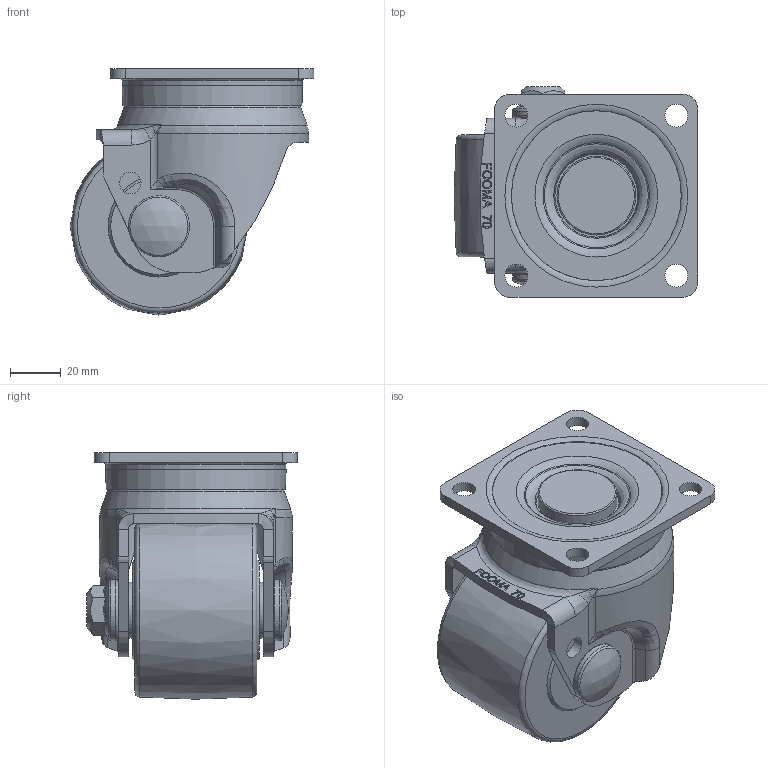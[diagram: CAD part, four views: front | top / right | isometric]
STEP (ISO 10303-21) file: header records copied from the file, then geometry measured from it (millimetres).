
FILE_DESCRIPTION(/* description */ (''),/* implementation_level */ '2;1');
FILE_NAME(/* name */ 'D:/JS-70-ASF-PJP v2.step',/* time_stamp */ '2020-04-02T11:06:53+09:00',/* author */ (''),/* organization */ (''),/* preprocessor_version */ 'ST-DEVELOPER v18',/* originating_system */ 'Autodesk Translation Framework v8.12.0.6',/* authorisation */ '');
FILE_SCHEMA (('AUTOMOTIVE_DESIGN { 1 0 10303 214 3 1 1 }'));
Length unit declared in the file: millimetre
Products named in the file (1): JS-70-ASF-PJP
Bounding box: 96 x 83 x 97 mm (x, y, z)
Volume: 313066 mm3; surface area: 57714.1 mm2
Topology: 1 solids, 1 shells, 625 faces, 1714 edges, 1113 vertices
Faces by surface type: plane 483, bspline 51, cylinder 46, torus 27, cone 17, sphere 1
Full cylindrical faces by diameter (mm): 8.5 x2, 9 x4, 22 x2, 24 x2, 28 x1, 31 x1, 61 x1
Entity records: 21797 total; most frequent: CARTESIAN_POINT 6098, ORIENTED_EDGE 3420, DIRECTION 2962, EDGE_CURVE 1710, LINE 1378, VECTOR 1378, VERTEX_POINT 1113, AXIS2_PLACEMENT_3D 792
